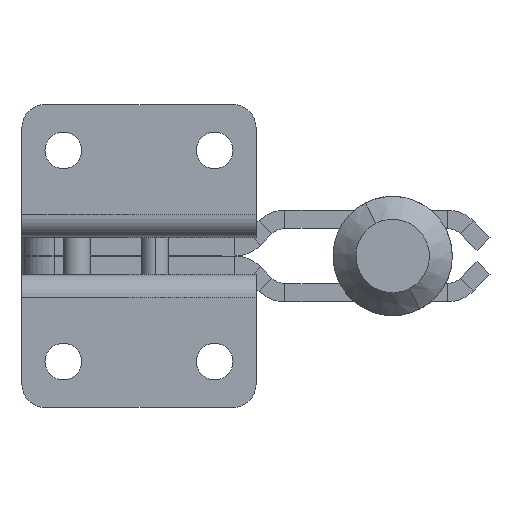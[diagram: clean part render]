
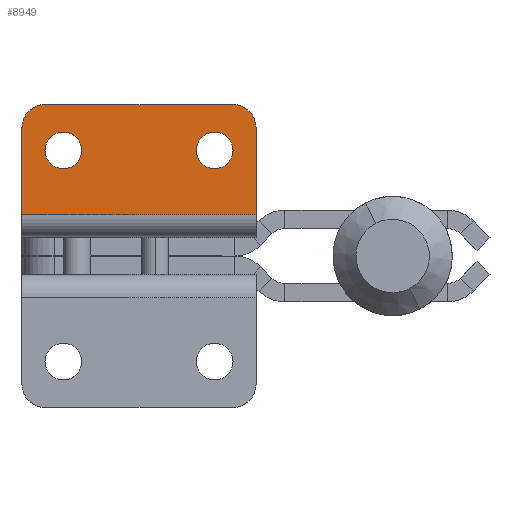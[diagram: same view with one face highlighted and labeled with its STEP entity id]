
A CAD part, front view. The second image highlights one B-rep face of the part: STEP entity #8949.
In plain terms, the highlighted planar face has unit normal (0, -1, 0).
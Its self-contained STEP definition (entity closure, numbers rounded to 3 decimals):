
#304 = VERTEX_POINT ( 'NONE', #8051 ) ;
#416 = ORIENTED_EDGE ( 'NONE', *, *, #13363, .T. ) ;
#429 = DIRECTION ( 'NONE',  ( 0., 1., 0. ) ) ;
#526 = DIRECTION ( 'NONE',  ( 1., 0., 0. ) ) ;
#1905 = FACE_BOUND ( 'NONE', #17517, .T. ) ;
#1953 = DIRECTION ( 'NONE',  ( 0., 1., 0. ) ) ;
#2167 = CARTESIAN_POINT ( 'NONE',  ( -2.5, 0., 0. ) ) ;
#2204 = EDGE_CURVE ( 'NONE', #304, #28741, #7240, .T. ) ;
#2551 = VERTEX_POINT ( 'NONE', #6839 ) ;
#2936 = LINE ( 'NONE', #12705, #21370 ) ;
#2994 = CARTESIAN_POINT ( 'NONE',  ( -5., 0., -4.5 ) ) ;
#3714 = DIRECTION ( 'NONE',  ( 0., 0., -1. ) ) ;
#4325 = ORIENTED_EDGE ( 'NONE', *, *, #15871, .T. ) ;
#4500 = ORIENTED_EDGE ( 'NONE', *, *, #28132, .F. ) ;
#5574 = DIRECTION ( 'NONE',  ( 0., 0., 1. ) ) ;
#5672 = VECTOR ( 'NONE', #26743, 1000. ) ;
#5730 = VERTEX_POINT ( 'NONE', #10728 ) ;
#6516 = ORIENTED_EDGE ( 'NONE', *, *, #22202, .F. ) ;
#6839 = CARTESIAN_POINT ( 'NONE',  ( -5., 0., -2.5 ) ) ;
#6880 = CARTESIAN_POINT ( 'NONE',  ( -5., 0., -4.5 ) ) ;
#7040 = FACE_OUTER_BOUND ( 'NONE', #24742, .T. ) ;
#7240 = LINE ( 'NONE', #22101, #5672 ) ;
#7480 = AXIS2_PLACEMENT_3D ( 'NONE', #9436, #9275, #26215 ) ;
#7642 = CARTESIAN_POINT ( 'NONE',  ( -2.5, 0., -25.5 ) ) ;
#8051 = CARTESIAN_POINT ( 'NONE',  ( 0., 0., -2.5 ) ) ;
#8386 = DIRECTION ( 'NONE',  ( 0., 1., 0. ) ) ;
#8588 = ORIENTED_EDGE ( 'NONE', *, *, #19655, .F. ) ;
#8674 = DIRECTION ( 'NONE',  ( 0., 0., 1. ) ) ;
#8949 = ADVANCED_FACE ( 'NONE', ( #16456, #1905, #7040 ), #21742, .F. ) ;
#9275 = DIRECTION ( 'NONE',  ( 0., 1., 0. ) ) ;
#9436 = CARTESIAN_POINT ( 'NONE',  ( -2.5, 0., -23. ) ) ;
#10360 = AXIS2_PLACEMENT_3D ( 'NONE', #15152, #12784, #5574 ) ;
#10376 = DIRECTION ( 'NONE',  ( 0., 0., 1. ) ) ;
#10728 = CARTESIAN_POINT ( 'NONE',  ( -2.5, 0., -25.5 ) ) ;
#10933 = CARTESIAN_POINT ( 'NONE',  ( 0., 0., -23. ) ) ;
#11806 = VERTEX_POINT ( 'NONE', #2167 ) ;
#12059 = CARTESIAN_POINT ( 'NONE',  ( -5., 0., -19. ) ) ;
#12081 = EDGE_CURVE ( 'NONE', #11806, #304, #13208, .T. ) ;
#12182 = ORIENTED_EDGE ( 'NONE', *, *, #22181, .T. ) ;
#12227 = VERTEX_POINT ( 'NONE', #12059 ) ;
#12313 = CARTESIAN_POINT ( 'NONE',  ( -5., 0., -6.5 ) ) ;
#12427 = AXIS2_PLACEMENT_3D ( 'NONE', #22372, #17562, #10376 ) ;
#12705 = CARTESIAN_POINT ( 'NONE',  ( -2.5, 0., 0. ) ) ;
#12784 = DIRECTION ( 'NONE',  ( 0., 1., 0. ) ) ;
#12913 = CIRCLE ( 'NONE', #19542, 2. ) ;
#13208 = CIRCLE ( 'NONE', #31088, 2.5 ) ;
#13296 = CARTESIAN_POINT ( 'NONE',  ( -5., 0., -23. ) ) ;
#13344 = DIRECTION ( 'NONE',  ( 0., 0., -1. ) ) ;
#13363 = EDGE_CURVE ( 'NONE', #18118, #21712, #25605, .T. ) ;
#13463 = CARTESIAN_POINT ( 'NONE',  ( -12., 0., -23. ) ) ;
#13713 = AXIS2_PLACEMENT_3D ( 'NONE', #13932, #1953, #8674 ) ;
#13932 = CARTESIAN_POINT ( 'NONE',  ( -5., 0., -21. ) ) ;
#15152 = CARTESIAN_POINT ( 'NONE',  ( -2.5, 0., -23. ) ) ;
#15398 = VERTEX_POINT ( 'NONE', #13296 ) ;
#15871 = EDGE_CURVE ( 'NONE', #2551, #21354, #12913, .T. ) ;
#16423 = ORIENTED_EDGE ( 'NONE', *, *, #22070, .T. ) ;
#16456 = FACE_BOUND ( 'NONE', #21655, .T. ) ;
#17218 = DIRECTION ( 'NONE',  ( -1., 0., 0. ) ) ;
#17517 = EDGE_LOOP ( 'NONE', ( #4325, #16423 ) ) ;
#17562 = DIRECTION ( 'NONE',  ( 0., 1., 0. ) ) ;
#18118 = VERTEX_POINT ( 'NONE', #20448 ) ;
#18187 = ORIENTED_EDGE ( 'NONE', *, *, #19695, .T. ) ;
#18898 = CARTESIAN_POINT ( 'NONE',  ( -12., 0., -25.5 ) ) ;
#19329 = CIRCLE ( 'NONE', #13713, 2. ) ;
#19484 = DIRECTION ( 'NONE',  ( 0., 1., 0. ) ) ;
#19542 = AXIS2_PLACEMENT_3D ( 'NONE', #2994, #429, #27291 ) ;
#19655 = EDGE_CURVE ( 'NONE', #18118, #11806, #2936, .T. ) ;
#19695 = EDGE_CURVE ( 'NONE', #12227, #15398, #19329, .T. ) ;
#20448 = CARTESIAN_POINT ( 'NONE',  ( -12., 0., 0. ) ) ;
#21354 = VERTEX_POINT ( 'NONE', #12313 ) ;
#21370 = VECTOR ( 'NONE', #526, 1000. ) ;
#21655 = EDGE_LOOP ( 'NONE', ( #18187, #12182 ) ) ;
#21712 = VERTEX_POINT ( 'NONE', #18898 ) ;
#21742 = PLANE ( 'NONE',  #7480 ) ;
#22070 = EDGE_CURVE ( 'NONE', #21354, #2551, #26193, .T. ) ;
#22101 = CARTESIAN_POINT ( 'NONE',  ( 0., 0., -2.5 ) ) ;
#22181 = EDGE_CURVE ( 'NONE', #15398, #12227, #24144, .T. ) ;
#22202 = EDGE_CURVE ( 'NONE', #28741, #5730, #30286, .T. ) ;
#22372 = CARTESIAN_POINT ( 'NONE',  ( -5., 0., -21. ) ) ;
#23345 = VECTOR ( 'NONE', #17218, 1000. ) ;
#23630 = AXIS2_PLACEMENT_3D ( 'NONE', #6880, #19484, #29261 ) ;
#24144 = CIRCLE ( 'NONE', #12427, 2. ) ;
#24374 = VECTOR ( 'NONE', #3714, 1000. ) ;
#24742 = EDGE_LOOP ( 'NONE', ( #8588, #416, #4500, #6516, #24928, #25001 ) ) ;
#24928 = ORIENTED_EDGE ( 'NONE', *, *, #2204, .F. ) ;
#25001 = ORIENTED_EDGE ( 'NONE', *, *, #12081, .F. ) ;
#25605 = LINE ( 'NONE', #13463, #24374 ) ;
#26193 = CIRCLE ( 'NONE', #23630, 2. ) ;
#26215 = DIRECTION ( 'NONE',  ( 1., 0., 0. ) ) ;
#26743 = DIRECTION ( 'NONE',  ( 0., 0., -1. ) ) ;
#27291 = DIRECTION ( 'NONE',  ( 0., 0., 1. ) ) ;
#27573 = CARTESIAN_POINT ( 'NONE',  ( -2.5, 0., -2.5 ) ) ;
#28132 = EDGE_CURVE ( 'NONE', #5730, #21712, #29077, .T. ) ;
#28741 = VERTEX_POINT ( 'NONE', #10933 ) ;
#29077 = LINE ( 'NONE', #7642, #23345 ) ;
#29261 = DIRECTION ( 'NONE',  ( 0., 0., 1. ) ) ;
#30286 = CIRCLE ( 'NONE', #10360, 2.5 ) ;
#31088 = AXIS2_PLACEMENT_3D ( 'NONE', #27573, #8386, #13344 ) ;
